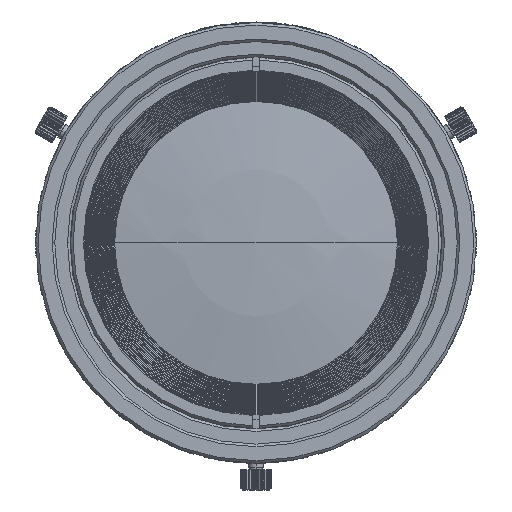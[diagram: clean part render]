
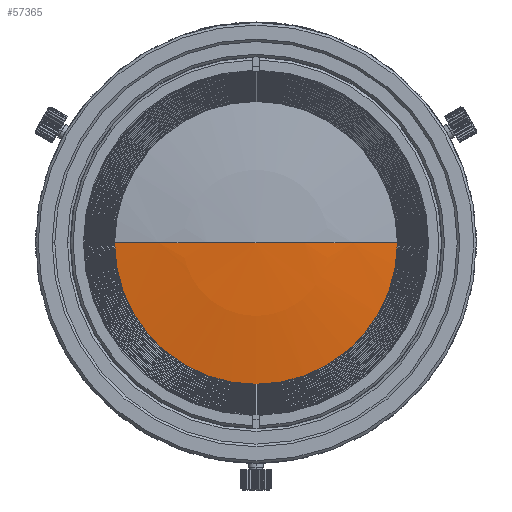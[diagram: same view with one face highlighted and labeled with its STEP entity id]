
A CAD part, left-side view. The second image highlights one B-rep face of the part: STEP entity #57365.
In plain terms, the highlighted spherical face has radius 200 mm.
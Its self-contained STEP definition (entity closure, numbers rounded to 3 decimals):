
#9326=CARTESIAN_POINT('',(132.211,0.,0.));
#9327=DIRECTION('',(0.,0.,-1.));
#9328=DIRECTION('',(-1.,0.,0.));
#9329=AXIS2_PLACEMENT_3D('',#9326,#9327,#9328);
#9331=CARTESIAN_POINT('',(-65.739,0.,0.));
#9332=DIRECTION('',(1.,0.,0.));
#9333=DIRECTION('',(0.,-1.,0.));
#9334=AXIS2_PLACEMENT_3D('',#9331,#9332,#9333);
#9336=CARTESIAN_POINT('',(132.211,0.,0.));
#9337=DIRECTION('',(0.,0.,1.));
#9338=DIRECTION('',(-1.,0.,0.));
#9339=AXIS2_PLACEMENT_3D('',#9336,#9337,#9338);
#47947=CARTESIAN_POINT('',(-65.739,28.564,0.));
#47948=CARTESIAN_POINT('',(-65.739,-28.564,0.));
#47949=VERTEX_POINT('',#47947);
#47950=VERTEX_POINT('',#47948);
#48004=CARTESIAN_POINT('',(-67.789,0.,0.));
#48005=VERTEX_POINT('',#48004);
#57355=CARTESIAN_POINT('',(132.211,0.,0.));
#57356=DIRECTION('',(-1.,0.,0.));
#57357=DIRECTION('',(0.,1.,0.));
#57358=AXIS2_PLACEMENT_3D('',#57355,#57356,#57357);
#57359=SPHERICAL_SURFACE('',#57358,200.);
#57360=ORIENTED_EDGE('',*,*,#55485,.T.);
#57361=ORIENTED_EDGE('',*,*,#57350,.F.);
#57362=ORIENTED_EDGE('',*,*,#57348,.T.);
#57363=EDGE_LOOP('',(#57360,#57361,#57362));
#57364=FACE_OUTER_BOUND('',#57363,.F.);
#9330=CIRCLE('',#9329,200.);
#9335=CIRCLE('',#9334,28.564);
#9340=CIRCLE('',#9339,200.);
#55485=EDGE_CURVE('',#47950,#47949,#9335,.T.);
#57348=EDGE_CURVE('',#48005,#47950,#9340,.T.);
#57350=EDGE_CURVE('',#48005,#47949,#9330,.T.);
#57365=ADVANCED_FACE('',(#57364),#57359,.T.);
